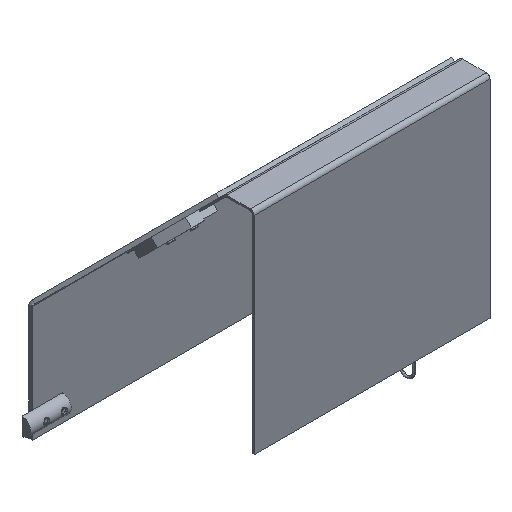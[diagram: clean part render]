
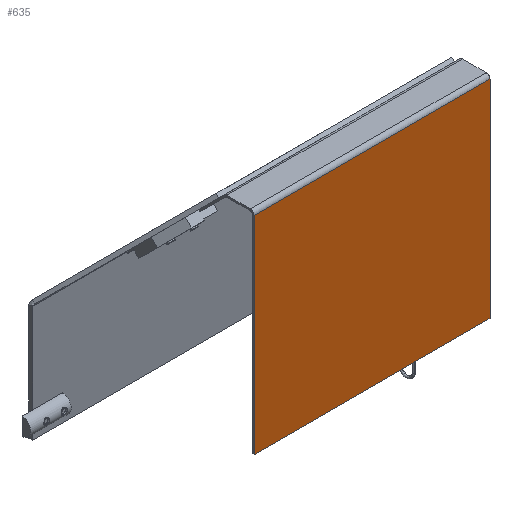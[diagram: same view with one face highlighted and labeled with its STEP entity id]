
A CAD part, isometric view. The second image highlights one B-rep face of the part: STEP entity #635.
In plain terms, the highlighted planar face has unit normal (0, -1, 0).
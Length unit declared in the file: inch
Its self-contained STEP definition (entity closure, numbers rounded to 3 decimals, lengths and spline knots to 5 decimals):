
#202=DIRECTION('',(0.,0.,1.));
#203=VECTOR('',#202,5.8922);
#204=CARTESIAN_POINT('',(3.355,-0.0478,-5.9522));
#205=LINE('',#204,#203);
#218=DIRECTION('',(0.,0.,1.));
#219=VECTOR('',#218,5.8922);
#220=CARTESIAN_POINT('',(-3.355,-0.0478,-5.9522));
#221=LINE('',#220,#219);
#222=DIRECTION('',(-1.,0.,0.));
#223=VECTOR('',#222,6.71);
#224=CARTESIAN_POINT('',(3.355,-0.0478,-5.9522));
#225=LINE('',#224,#223);
#230=DIRECTION('',(-1.,0.,0.));
#231=VECTOR('',#230,6.71);
#232=CARTESIAN_POINT('',(3.355,-0.0478,-0.06));
#233=LINE('',#232,#231);
#262=CARTESIAN_POINT('',(3.355,-0.0478,-5.9522));
#263=CARTESIAN_POINT('',(3.355,-0.0478,-0.06));
#264=VERTEX_POINT('',#262);
#265=VERTEX_POINT('',#263);
#272=CARTESIAN_POINT('',(-3.355,-0.0478,-5.9522));
#273=CARTESIAN_POINT('',(-3.355,-0.0478,-0.06));
#274=VERTEX_POINT('',#272);
#275=VERTEX_POINT('',#273);
#622=CARTESIAN_POINT('',(3.355,-0.0478,-5.9522));
#623=DIRECTION('',(0.,1.,0.));
#624=DIRECTION('',(0.,0.,1.));
#625=AXIS2_PLACEMENT_3D('',#622,#623,#624);
#626=PLANE('',#625);
#627=ORIENTED_EDGE('',*,*,#588,.F.);
#629=ORIENTED_EDGE('',*,*,#628,.T.);
#630=ORIENTED_EDGE('',*,*,#615,.T.);
#632=ORIENTED_EDGE('',*,*,#631,.F.);
#633=EDGE_LOOP('',(#627,#629,#630,#632));
#634=FACE_OUTER_BOUND('',#633,.F.);
#588=EDGE_CURVE('',#264,#265,#205,.T.);
#615=EDGE_CURVE('',#274,#275,#221,.T.);
#628=EDGE_CURVE('',#264,#274,#225,.T.);
#631=EDGE_CURVE('',#265,#275,#233,.T.);
#635=ADVANCED_FACE('',(#634),#626,.F.);
